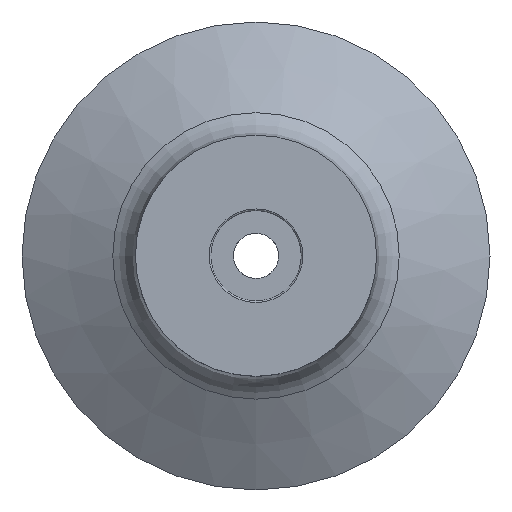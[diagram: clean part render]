
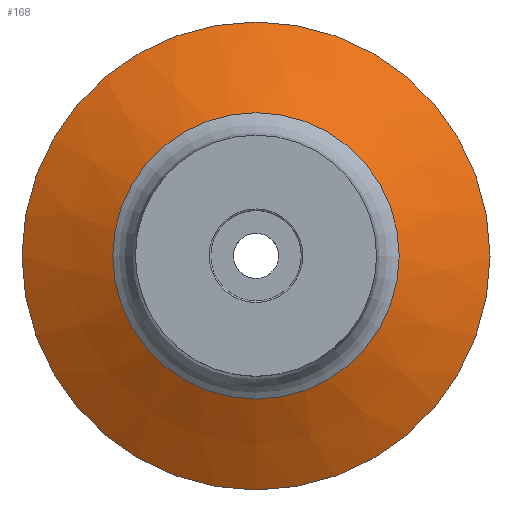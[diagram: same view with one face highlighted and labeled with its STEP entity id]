
A CAD part, top view. The second image highlights one B-rep face of the part: STEP entity #168.
In plain terms, the highlighted conical face has half-angle 60 degrees and reference radius 8 mm.
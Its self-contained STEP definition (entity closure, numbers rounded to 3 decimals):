
#168=ADVANCED_FACE('',(#478,#479),#480,.T.);
#478=FACE_BOUND('',#945,.T.);
#479=FACE_OUTER_BOUND('',#946,.T.);
#480=CONICAL_SURFACE('',#947,8.0,1.047);
#945=EDGE_LOOP('',(#1856));
#946=EDGE_LOOP('',(#1857));
#947=AXIS2_PLACEMENT_3D('',#1858,#1859,#1860);
#1856=ORIENTED_EDGE('',*,*,#2860,.T.);
#1857=ORIENTED_EDGE('',*,*,#3094,.T.);
#1858=CARTESIAN_POINT('',(0.0,0.,4.641));
#1859=DIRECTION('',(0.0,0.,-1.0));
#1860=DIRECTION('',(0.0,1.0,0.));
#2860=EDGE_CURVE('',#3376,#3376,#3377,.T.);
#3094=EDGE_CURVE('',#3786,#3786,#3787,.T.);
#3376=VERTEX_POINT('',#4218);
#3377=CIRCLE('',#4219,9.5);
#3786=VERTEX_POINT('',#4782);
#3787=CIRCLE('',#4783,15.52);
#4218=CARTESIAN_POINT('',(0.0,9.5,3.775));
#4219=AXIS2_PLACEMENT_3D('',#5364,#5365,#5366);
#4782=CARTESIAN_POINT('',(0.0,-15.52,0.3));
#4783=AXIS2_PLACEMENT_3D('',#5758,#5759,#5760);
#5364=CARTESIAN_POINT('',(0.0,0.,3.775));
#5365=DIRECTION('',(0.0,0.,-1.0));
#5366=DIRECTION('',(0.0,1.0,0.));
#5758=CARTESIAN_POINT('',(0.0,0.,0.3));
#5759=DIRECTION('',(0.0,0.,1.0));
#5760=DIRECTION('',(0.0,-1.0,0.));
